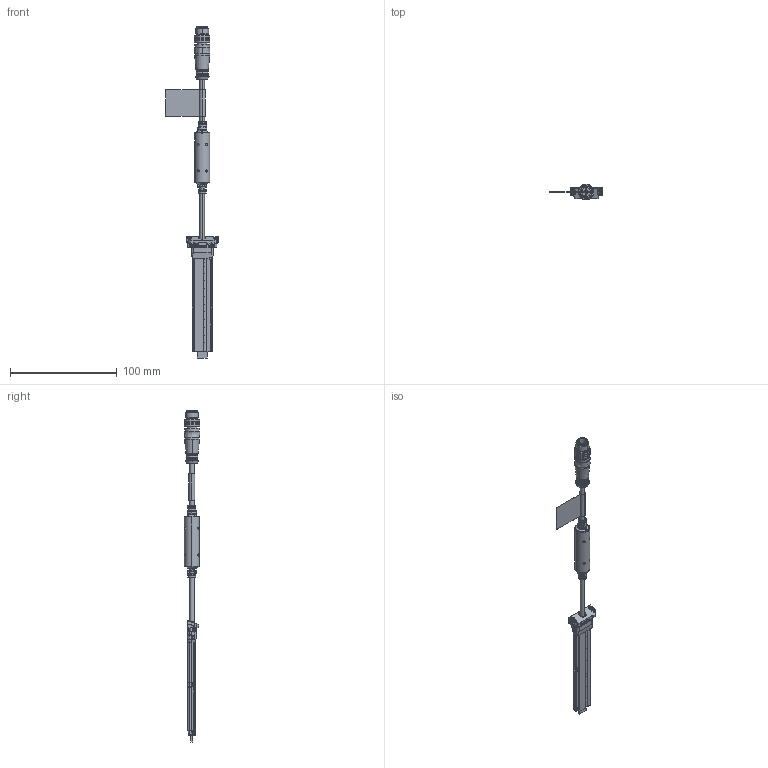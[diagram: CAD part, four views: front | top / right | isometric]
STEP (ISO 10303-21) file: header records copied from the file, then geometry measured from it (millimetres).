
FILE_DESCRIPTION((''),'2;1');
FILE_NAME('995-500_082_PLUG-IN_M12-5M_ON-O','2017-04-04T',('SRao1'),('Rockwell Automation'),'PRO/ENGINEER BY PARAMETRIC TECHNOLOGY CORPORATION, 2012480','PRO/ENGINEER BY PARAMETRIC TECHNOLOGY CORPORATION, 2012480','');
FILE_SCHEMA(('CONFIG_CONTROL_DESIGN'));
Products named in the file (1): 995-500_082_PLUG-IN_M12-5M_ON-O
Bounding box: 49.3 x 14.6 x 311.49 mm (x, y, z)
Volume: 1821 mm3; surface area: 31878.2 mm2
Topology: 1 solids, 20 shells, 2497 faces, 6560 edges, 4131 vertices
Faces by surface type: plane 1392, cylinder 644, bspline 375, cone 32, sphere 30, torus 24
Entity records: 113393 total; most frequent: CARTESIAN_POINT 54574, ORIENTED_EDGE 13029, DIRECTION 10901, EDGE_CURVE 6541, VERTEX_POINT 4138, VECTOR 4131, LINE 4131, AXIS2_PLACEMENT_3D 3385
